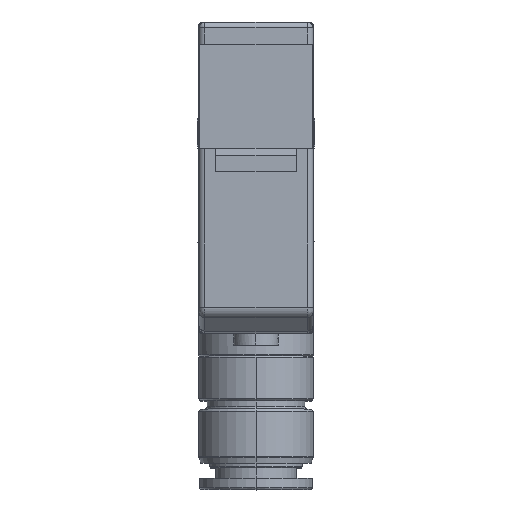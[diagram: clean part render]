
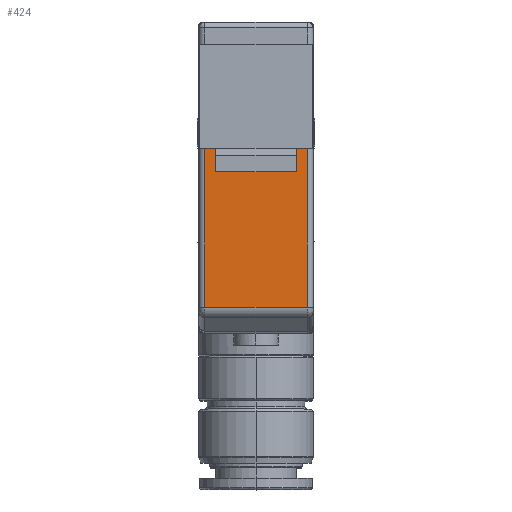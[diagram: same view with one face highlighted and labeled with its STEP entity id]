
A CAD part, top view. The second image highlights one B-rep face of the part: STEP entity #424.
In plain terms, the highlighted planar face has unit normal (0, 0, 1).
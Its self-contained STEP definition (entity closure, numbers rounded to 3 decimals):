
#424=ADVANCED_FACE('',(#1952),#1951,.F.);
#1951=PLANE('',#5310);
#1952=FACE_OUTER_BOUND('',#5311,.T.);
#5307=CARTESIAN_POINT('',(5.34,-26.283,27.4));
#5308=DIRECTION('',(0.,0.,-1.));
#5309=DIRECTION('',(-1.,0.,0.));
#5310=AXIS2_PLACEMENT_3D('',#5307,#5308,#5309);
#5311=EDGE_LOOP('',(#7757,#7758,#7759,#7760,#7761,#7762,#7763,#7764));
#7757=ORIENTED_EDGE('',*,*,#9300,.F.);
#7758=ORIENTED_EDGE('',*,*,#9307,.T.);
#7759=ORIENTED_EDGE('',*,*,#9308,.T.);
#7760=ORIENTED_EDGE('',*,*,#9309,.T.);
#7761=ORIENTED_EDGE('',*,*,#9292,.F.);
#7762=ORIENTED_EDGE('',*,*,#9228,.F.);
#7763=ORIENTED_EDGE('',*,*,#9237,.F.);
#7764=ORIENTED_EDGE('',*,*,#9230,.T.);
#9228=EDGE_CURVE('',#11642,#11627,#11649,.T.);
#9230=EDGE_CURVE('',#11663,#11656,#11664,.T.);
#9237=EDGE_CURVE('',#11663,#11642,#11709,.T.);
#9292=EDGE_CURVE('',#11627,#12079,#12080,.T.);
#9300=EDGE_CURVE('',#12126,#11656,#12133,.T.);
#9307=EDGE_CURVE('',#12126,#12179,#12180,.T.);
#9308=EDGE_CURVE('',#12179,#12186,#12187,.T.);
#9309=EDGE_CURVE('',#12186,#12079,#12193,.T.);
#11627=VERTEX_POINT('',#17051);
#11642=VERTEX_POINT('',#17060);
#11649=LINE('',#17064,#17065);
#11656=VERTEX_POINT('',#17068);
#11663=VERTEX_POINT('',#17072);
#11664=LINE('',#17073,#17074);
#11709=LINE('',#17097,#17098);
#12079=VERTEX_POINT('',#17306);
#12080=LINE('',#17307,#17308);
#12126=VERTEX_POINT('',#17333);
#12133=LINE('',#17338,#17339);
#12179=VERTEX_POINT('',#17363);
#12180=LINE('',#17364,#17365);
#12186=VERTEX_POINT('',#17367);
#12187=LINE('',#17368,#17369);
#12193=LINE('',#17371,#17372);
#17051=CARTESIAN_POINT('',(4.,-11.,27.4));
#17060=CARTESIAN_POINT('',(4.,-9.5,27.4));
#17064=CARTESIAN_POINT('',(4.,-9.5,27.4));
#17065=VECTOR('',#17066,1.5);
#17066=DIRECTION('',(0.,-1.,0.));
#17068=CARTESIAN_POINT('',(-4.,-11.,27.4));
#17072=CARTESIAN_POINT('',(-4.,-9.5,27.4));
#17073=CARTESIAN_POINT('',(-4.,-9.5,27.4));
#17074=VECTOR('',#17075,1.5);
#17075=DIRECTION('',(0.,-1.,0.));
#17097=CARTESIAN_POINT('',(-4.,-9.5,27.4));
#17098=VECTOR('',#17099,8.);
#17099=DIRECTION('',(1.,0.,0.));
#17306=CARTESIAN_POINT('',(4.45,-11.,27.4));
#17307=CARTESIAN_POINT('',(4.,-11.,27.4));
#17308=VECTOR('',#17309,0.45);
#17309=DIRECTION('',(1.,0.,0.));
#17333=CARTESIAN_POINT('',(-4.45,-11.,27.4));
#17338=CARTESIAN_POINT('',(-4.45,-11.,27.4));
#17339=VECTOR('',#17340,0.45);
#17340=DIRECTION('',(1.,0.,0.));
#17363=CARTESIAN_POINT('',(-4.45,-24.758,27.4));
#17364=CARTESIAN_POINT('',(-4.45,-11.,27.4));
#17365=VECTOR('',#17366,13.758);
#17366=DIRECTION('',(0.,-1.,0.));
#17367=CARTESIAN_POINT('',(4.45,-24.758,27.4));
#17368=CARTESIAN_POINT('',(-4.45,-24.758,27.4));
#17369=VECTOR('',#17370,8.9);
#17370=DIRECTION('',(1.,0.,0.));
#17371=CARTESIAN_POINT('',(4.45,-24.758,27.4));
#17372=VECTOR('',#17373,13.758);
#17373=DIRECTION('',(0.,1.,0.));
